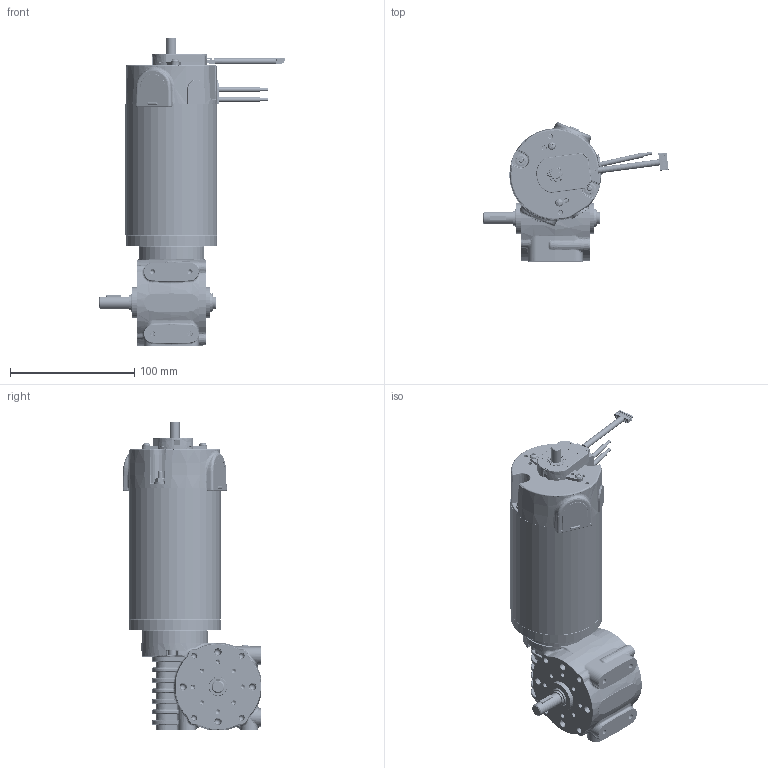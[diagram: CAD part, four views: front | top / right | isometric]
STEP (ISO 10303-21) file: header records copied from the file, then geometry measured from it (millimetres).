
FILE_DESCRIPTION (( 'STEP AP214' ), '1' );
FILE_NAME ('BRx70-60-GB80 - Incr Encoder - Shaft.STEP', '2025-09-10T14:41:34', ( '' ), ( '' ), 'SwSTEP 2.0', 'SolidWorks 2023', '' );
FILE_SCHEMA (( 'AUTOMOTIVE_DESIGN' ));
Length unit declared in the file: millimetre
Products named in the file (1): BRx70-60-GB80 - Incr Encoder - Shaft
Bounding box: 149.21 x 111.85 x 248.5 mm (x, y, z)
Surface area: 230998.1 mm2 (no closed solid volume)
Topology: 0 solids, 64 shells, 6685 faces, 17243 edges, 10761 vertices
Faces by surface type: plane 2347, cylinder 2214, cone 819, bspline 750, torus 483, sphere 72
Entity records: 328526 total; most frequent: CARTESIAN_POINT 105207, ORIENTED_EDGE 34138, DIRECTION 27190, EDGE_CURVE 17071, AXIS2_PLACEMENT_3D 11051, VERTEX_POINT 10761, EDGE_LOOP 7212, UNCERTAINTY_MEASURE_WITH_UNIT 6749
